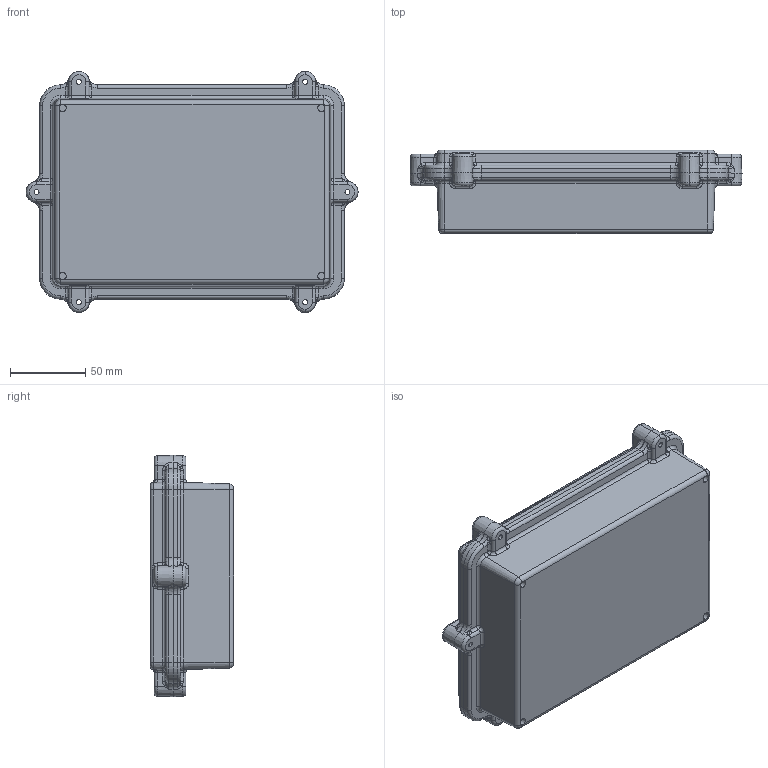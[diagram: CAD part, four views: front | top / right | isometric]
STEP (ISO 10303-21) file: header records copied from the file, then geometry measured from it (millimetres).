
FILE_DESCRIPTION (( 'STEP AP203' ), '1' );
FILE_NAME ('SE-554-0-0.STEP', '2018-07-19T06:07:30', ( '' ), ( '' ), 'SwSTEP 2.0', 'SolidWorks 2018', '' );
FILE_SCHEMA (( 'CONFIG_CONTROL_DESIGN' ));
Length unit declared in the file: millimetre
Products named in the file (3): SE-554-P-1; SE-554-0-0; SE-554-P-2
Assembly tree (2 placements, depth 2):
  SE-554-0-0
    SE-554-P-1
    SE-554-P-2
Bounding box: 219.95 x 55.15 x 160 mm (x, y, z)
Volume: 249284.4 mm3; surface area: 191030.9 mm2
Topology: 2 solids, 2 shells, 813 faces, 1943 edges, 1107 vertices
Faces by surface type: cylinder 260, plane 177, bspline 164, cone 96, torus 72, sphere 44
Entity records: 27981 total; most frequent: CARTESIAN_POINT 10068, ORIENTED_EDGE 3798, DIRECTION 3642, EDGE_CURVE 1899, AXIS2_PLACEMENT_3D 1453, VERTEX_POINT 1107, EDGE_LOOP 854, ADVANCED_FACE 813
